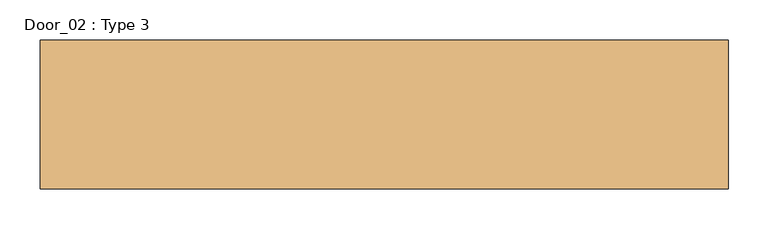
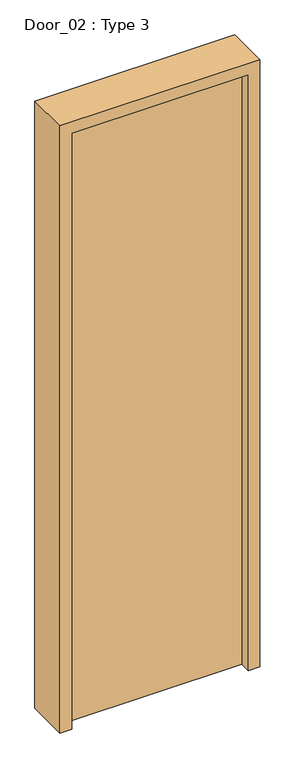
"""IFC4 building model written with IfcOpenShell, lengths in millimetres: door geometry, Door_02 : Type 3."""

from ifc_helpers import new_model, si_unit, frame, origin, origin_with_axes, place, context, project, spatial, polyline, outline, extrude, source, transform, mapped, element, save


def door_02_type_3_db1270f6(model_context):
    return source(origin(), model_context, "Body", "SweptSolid", [
        extrude(outline(polyline([(380.0, -40.9955629), (-380.0, -40.9955629), (-380.0, 9.0044371), (380.0, 9.0044371), (380.0, -40.9955629)])), origin_with_axes(), (0.0, 0.0, 1.0), 2710.0),
        extrude(outline(polyline([(2760.0, -430.0), (0.0, -430.0), (0.0, -380.0), (2710.0, -380.0), (2710.0, 380.0), (0.0, 380.0), (0.0, 430.0), (2760.0, 430.0), (2760.0, -430.0)])), frame((0.0, -88.5243951, 0.0), z_axis=(0.0, 1.0, 0.0), x_axis=(0.0, 0.0, 1.0)), (0.0, 0.0, 1.0), 186.3619312),
    ])


if __name__ == "__main__":
    model = new_model("IFC4")
    model_context = context("Model", 3, world=origin())
    ifc_project = project(units=[si_unit("LENGTHUNIT", "METRE", prefix="MILLI")], contexts=[model_context])
    site = spatial("IfcSite", under=ifc_project)
    building = spatial("IfcBuilding", under=site)
    placement = place(None, origin())
    door_02_type_3_shape = door_02_type_3_db1270f6(model_context)
    element("IfcDoor", 1, ObjectType="Door_02 : Type 3", at=placement, inside=building, context=model_context, shape_type="MappedRepresentation", body=[
        mapped(door_02_type_3_shape, transform((0.0, 0.0, 0.0), x_axis=(1.0, 0.0, 0.0), y_axis=(0.0, 1.0, 0.0), z_axis=(0.0, 0.0, 1.0))),
    ])
    save(model, "model.ifc")
